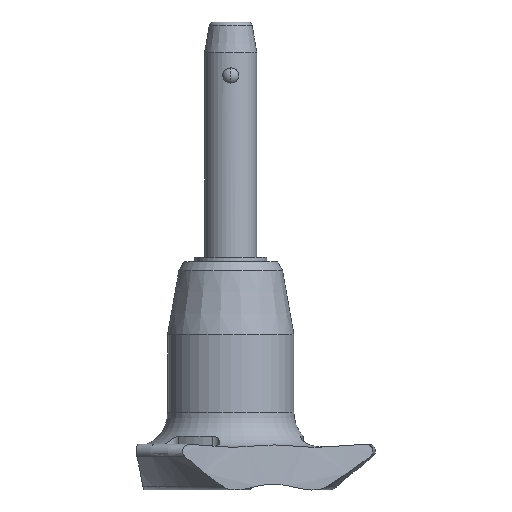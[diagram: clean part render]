
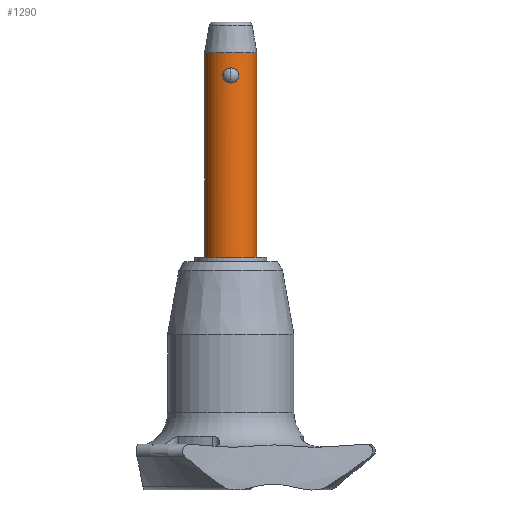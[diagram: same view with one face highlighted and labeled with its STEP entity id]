
A CAD part, front view. The second image highlights one B-rep face of the part: STEP entity #1290.
In plain terms, the highlighted cylindrical face has radius 3 mm (diameter 6 mm), a partial arc.
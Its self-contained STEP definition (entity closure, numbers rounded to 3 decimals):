
#9 = AXIS2_PLACEMENT_3D ( 'NONE', #966, #2440, #1143 ) ;
#57 = CARTESIAN_POINT ( 'NONE',  ( -0.74, -2.909, 0.318 ) ) ;
#65 = CARTESIAN_POINT ( 'NONE',  ( 0.738, -2.909, 0.317 ) ) ;
#75 = CARTESIAN_POINT ( 'NONE',  ( 0.811, -2.889, 0.412 ) ) ;
#92 = CARTESIAN_POINT ( 'NONE',  ( 0.563, -2.948, 0.162 ) ) ;
#105 = CARTESIAN_POINT ( 'NONE',  ( 0.118, -3., 0. ) ) ;
#246 = CARTESIAN_POINT ( 'NONE',  ( -0.911, -2.859, 0.63 ) ) ;
#248 = ORIENTED_EDGE ( 'NONE', *, *, #1811, .F. ) ;
#269 = CIRCLE ( 'NONE', #2548, 3. ) ;
#274 = CARTESIAN_POINT ( 'NONE',  ( 3., 0., -20. ) ) ;
#281 = ORIENTED_EDGE ( 'NONE', *, *, #512, .T. ) ;
#347 = B_SPLINE_CURVE_WITH_KNOTS ( 'NONE', 3,
 ( #404, #374, #1198, #2074, #1872, #1250, #2564, #2359, #1063, #2338, #246, #867, #57, #1099, #654, #1287, #2159, #1266 ),
 .UNSPECIFIED., .F., .F.,
 ( 4, 2, 2, 2, 2, 2, 2, 2, 4 ),
 ( 0., 0., 0.001, 0.001, 0.001, 0.002, 0.002, 0.002, 0.003 ),
 .UNSPECIFIED. ) ;
#374 = CARTESIAN_POINT ( 'NONE',  ( -0.12, -3., 1.732 ) ) ;
#404 = CARTESIAN_POINT ( 'NONE',  ( 0., -3., 1.732 ) ) ;
#464 = VERTEX_POINT ( 'NONE', #994 ) ;
#492 = CARTESIAN_POINT ( 'NONE',  ( 0.461, -2.966, 1.63 ) ) ;
#512 = EDGE_CURVE ( 'NONE', #1904, #1462, #588, .T. ) ;
#552 = DIRECTION ( 'NONE',  ( 0., 0., -1. ) ) ;
#562 = CARTESIAN_POINT ( 'NONE',  ( -3., 0., -20. ) ) ;
#588 = LINE ( 'NONE', #2256, #1339 ) ;
#604 = ORIENTED_EDGE ( 'NONE', *, *, #2429, .F. ) ;
#635 = ORIENTED_EDGE ( 'NONE', *, *, #1393, .T. ) ;
#654 = CARTESIAN_POINT ( 'NONE',  ( -0.46, -2.967, 0.101 ) ) ;
#683 = CARTESIAN_POINT ( 'NONE',  ( 0., -3., 0. ) ) ;
#729 = CARTESIAN_POINT ( 'NONE',  ( 0.459, -2.967, 0.101 ) ) ;
#745 = CARTESIAN_POINT ( 'NONE',  ( 0.91, -2.859, 0.626 ) ) ;
#867 = CARTESIAN_POINT ( 'NONE',  ( -0.812, -2.889, 0.414 ) ) ;
#926 = CARTESIAN_POINT ( 'NONE',  ( 0., 0., -20. ) ) ;
#932 = CARTESIAN_POINT ( 'NONE',  ( 0.937, -2.85, 0.744 ) ) ;
#961 = EDGE_CURVE ( 'NONE', #1954, #464, #2654, .T. ) ;
#966 = CARTESIAN_POINT ( 'NONE',  ( 0., 0., -20. ) ) ;
#994 = CARTESIAN_POINT ( 'NONE',  ( -3., 0., 3.5 ) ) ;
#1063 = CARTESIAN_POINT ( 'NONE',  ( -0.937, -2.85, 0.986 ) ) ;
#1087 = AXIS2_PLACEMENT_3D ( 'NONE', #1417, #2689, #2293 ) ;
#1097 = CARTESIAN_POINT ( 'NONE',  ( 0.937, -2.85, 0.985 ) ) ;
#1099 = CARTESIAN_POINT ( 'NONE',  ( -0.564, -2.948, 0.162 ) ) ;
#1106 = ORIENTED_EDGE ( 'NONE', *, *, #961, .F. ) ;
#1108 = CARTESIAN_POINT ( 'NONE',  ( 0.238, -2.993, 1.712 ) ) ;
#1143 = DIRECTION ( 'NONE',  ( 1., 0., 0. ) ) ;
#1165 = CARTESIAN_POINT ( 'NONE',  ( 0., -3., 1.732 ) ) ;
#1184 = EDGE_LOOP ( 'NONE', ( #1106, #2068, #281, #635 ) ) ;
#1198 = CARTESIAN_POINT ( 'NONE',  ( -0.238, -2.993, 1.712 ) ) ;
#1250 = CARTESIAN_POINT ( 'NONE',  ( -0.739, -2.909, 1.414 ) ) ;
#1266 = CARTESIAN_POINT ( 'NONE',  ( 0., -3., 0. ) ) ;
#1287 = CARTESIAN_POINT ( 'NONE',  ( -0.238, -2.993, 0.021 ) ) ;
#1290 = ADVANCED_FACE ( 'NONE', ( #2538, #2417 ), #2650, .T. ) ;
#1339 = VECTOR ( 'NONE', #2073, 1000. ) ;
#1393 = EDGE_CURVE ( 'NONE', #1462, #464, #1714, .T. ) ;
#1417 = CARTESIAN_POINT ( 'NONE',  ( 0., 0., 3.5 ) ) ;
#1462 = VERTEX_POINT ( 'NONE', #1822 ) ;
#1584 = CARTESIAN_POINT ( 'NONE',  ( 0.911, -2.859, 1.103 ) ) ;
#1600 = EDGE_CURVE ( 'NONE', #1904, #1954, #269, .T. ) ;
#1714 = CIRCLE ( 'NONE', #1087, 3. ) ;
#1750 = CARTESIAN_POINT ( 'NONE',  ( 0.12, -3., 1.732 ) ) ;
#1811 = EDGE_CURVE ( 'NONE', #1919, #2708, #347, .T. ) ;
#1822 = CARTESIAN_POINT ( 'NONE',  ( 3., 0., 3.5 ) ) ;
#1866 = B_SPLINE_CURVE_WITH_KNOTS ( 'NONE', 3,
 ( #2396, #105, #1946, #729, #92, #65, #75, #745, #932, #1097, #1584, #2427, #2571, #2371, #492, #1108, #1750, #1165 ),
 .UNSPECIFIED., .F., .F.,
 ( 4, 2, 2, 2, 2, 2, 2, 2, 4 ),
 ( 0.003, 0.003, 0.004, 0.004, 0.004, 0.005, 0.005, 0.005, 0.006 ),
 .UNSPECIFIED. ) ;
#1872 = CARTESIAN_POINT ( 'NONE',  ( -0.563, -2.948, 1.57 ) ) ;
#1904 = VERTEX_POINT ( 'NONE', #274 ) ;
#1919 = VERTEX_POINT ( 'NONE', #2102 ) ;
#1946 = CARTESIAN_POINT ( 'NONE',  ( 0.238, -2.993, 0.021 ) ) ;
#1954 = VERTEX_POINT ( 'NONE', #2321 ) ;
#2068 = ORIENTED_EDGE ( 'NONE', *, *, #1600, .F. ) ;
#2073 = DIRECTION ( 'NONE',  ( 0., 0., 1. ) ) ;
#2074 = CARTESIAN_POINT ( 'NONE',  ( -0.461, -2.967, 1.63 ) ) ;
#2102 = CARTESIAN_POINT ( 'NONE',  ( 0., -3., 1.732 ) ) ;
#2159 = CARTESIAN_POINT ( 'NONE',  ( -0.118, -3., 0. ) ) ;
#2185 = DIRECTION ( 'NONE',  ( 1., 0., 0. ) ) ;
#2228 = DIRECTION ( 'NONE',  ( 0., 0., 1. ) ) ;
#2241 = VECTOR ( 'NONE', #2228, 1000. ) ;
#2256 = CARTESIAN_POINT ( 'NONE',  ( 3., 0., -20. ) ) ;
#2293 = DIRECTION ( 'NONE',  ( 1., 0., 0. ) ) ;
#2321 = CARTESIAN_POINT ( 'NONE',  ( -3., 0., -20. ) ) ;
#2338 = CARTESIAN_POINT ( 'NONE',  ( -0.937, -2.85, 0.749 ) ) ;
#2359 = CARTESIAN_POINT ( 'NONE',  ( -0.91, -2.859, 1.105 ) ) ;
#2371 = CARTESIAN_POINT ( 'NONE',  ( 0.564, -2.948, 1.57 ) ) ;
#2396 = CARTESIAN_POINT ( 'NONE',  ( 0., -3., 0. ) ) ;
#2417 = FACE_BOUND ( 'NONE', #2545, .T. ) ;
#2427 = CARTESIAN_POINT ( 'NONE',  ( 0.812, -2.888, 1.317 ) ) ;
#2429 = EDGE_CURVE ( 'NONE', #2708, #1919, #1866, .T. ) ;
#2440 = DIRECTION ( 'NONE',  ( 0., 0., 1. ) ) ;
#2538 = FACE_OUTER_BOUND ( 'NONE', #1184, .T. ) ;
#2545 = EDGE_LOOP ( 'NONE', ( #248, #604 ) ) ;
#2548 = AXIS2_PLACEMENT_3D ( 'NONE', #926, #552, #2185 ) ;
#2564 = CARTESIAN_POINT ( 'NONE',  ( -0.811, -2.889, 1.319 ) ) ;
#2571 = CARTESIAN_POINT ( 'NONE',  ( 0.74, -2.909, 1.414 ) ) ;
#2650 = CYLINDRICAL_SURFACE ( 'NONE', #9, 3. ) ;
#2654 = LINE ( 'NONE', #562, #2241 ) ;
#2689 = DIRECTION ( 'NONE',  ( 0., 0., -1. ) ) ;
#2708 = VERTEX_POINT ( 'NONE', #683 ) ;
